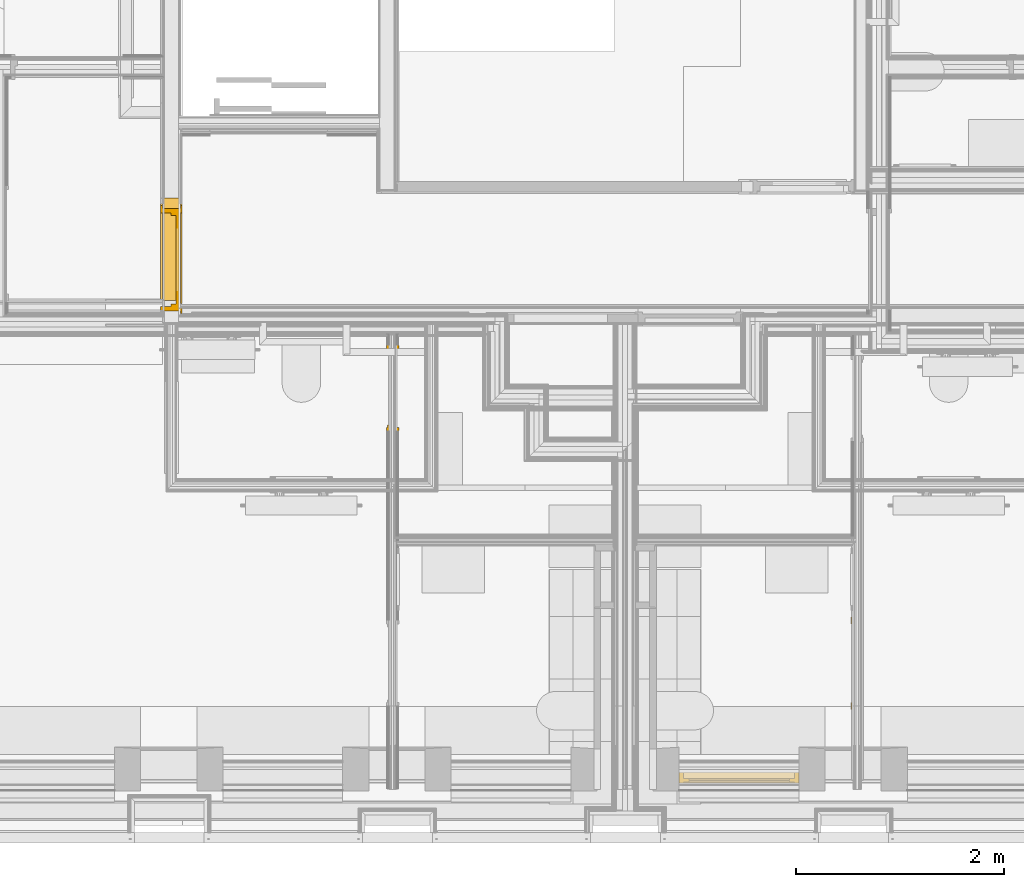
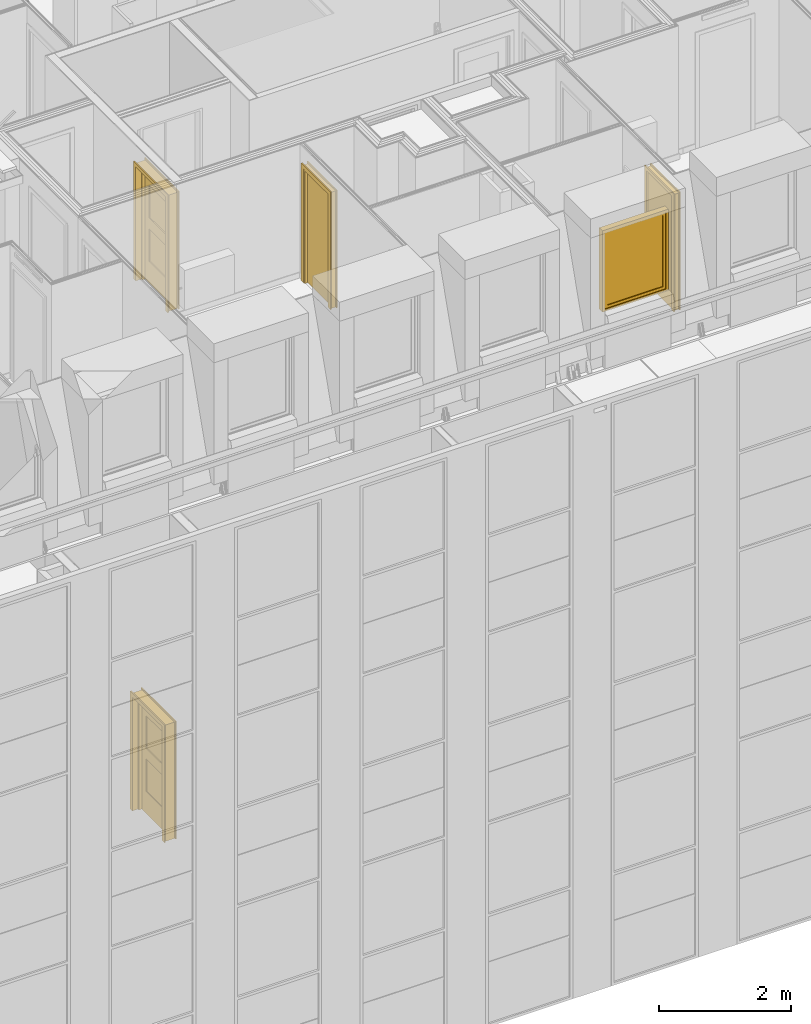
# One storey, part 104 of 169: 4 doors, 1 window.
"""IFC2X3 building model written with IfcOpenShell, lengths in metres."""

import ifcopenshell
import ifcopenshell.guid

model = None  # the IFC model being written
_history = None  # IfcOwnerHistory: only IFC2X3 demands one
_inside = {}  # id of a spatial element -> (the spatial element, [elements in it])
_under = {}  # id of a project, library or spatial element -> (it, [spatial elements below it])
_declared = {}  # id of a project -> (the project, [libraries it declares])
_typed = {}  # id of a type object -> (the type object, [elements of that type])
_made_of = {}  # id of a material, layer set ... -> (it, [elements and type objects made of it])


def new_model(schema):
    """Start an empty IFC model of exactly this schema.

    Asked for "IFC4X3", IfcOpenShell would pick the latest addendum, in which some entities
    have other attributes; the version numbers below select the first issue.
    IFC2X3 requires an IfcOwnerHistory on every rooted entity: one is made here for all.
    """
    global model, _history
    if schema == "IFC4X3":
        model = ifcopenshell.file(schema_version=(4, 3, 0, 0))
    else:
        model = ifcopenshell.file(schema=schema)
    _inside.clear()
    _under.clear()
    _declared.clear()
    _typed.clear()
    _made_of.clear()
    _history = None
    if model.schema == "IFC2X3":
        org = make("IfcOrganization", Name="unknown")
        user = make(
            "IfcPersonAndOrganization",
            ThePerson=make("IfcPerson", FamilyName="unknown"),
            TheOrganization=org,
        )
        app = make(
            "IfcApplication",
            ApplicationDeveloper=org,
            Version="unknown",
            ApplicationFullName="unknown",
            ApplicationIdentifier="unknown",
        )
        _history = make(
            "IfcOwnerHistory",
            OwningUser=user,
            OwningApplication=app,
            ChangeAction="ADDED",
            CreationDate=0,
        )
    return model


def make(cls, **values):
    """One entity of the class cls with the attributes given. An attribute that is None is left unset."""
    return model.create_entity(
        cls, **{name: value for name, value in values.items() if value is not None}
    )


def entity(cls, *values):
    """Any entity or typed value of the class cls, its attributes in the order of the schema. None: left unset."""
    e = model.create_entity(cls)
    for i, value in enumerate(values):
        if value is not None:
            e[i] = value
    return e


def rooted(cls, **values):
    """An entity with a GlobalId (a new one), such as an element, a storey or a relation."""
    return make(cls, GlobalId=ifcopenshell.guid.new(), OwnerHistory=_history, **values)


def si_unit(unit_type, name, prefix=None):
    """IfcSIUnit, for example si_unit("LENGTHUNIT", "METRE", prefix="MILLI")."""
    return make("IfcSIUnit", UnitType=unit_type, Prefix=prefix, Name=name)


def converted_unit(unit_type, name, factor, base, dimensions=None, offset=None):
    """IfcConversionBasedUnit, such as the inch: factor (a typed value) times the base unit."""
    return make(
        "IfcConversionBasedUnit"
        if offset is None
        else "IfcConversionBasedUnitWithOffset",
        ConversionOffset=offset,
        Dimensions=None
        if dimensions is None
        else entity("IfcDimensionalExponents", *dimensions),
        UnitType=unit_type,
        Name=name,
        ConversionFactor=make(
            "IfcMeasureWithUnit", ValueComponent=factor, UnitComponent=base
        ),
    )


def derived_unit(unit_type, elements):
    """IfcDerivedUnit: a product of units, each with its exponent."""
    return make(
        "IfcDerivedUnit",
        Elements=[
            make("IfcDerivedUnitElement", Unit=unit, Exponent=power)
            for unit, power in elements
        ],
        UnitType=unit_type,
    )


def money_unit(currency):
    """IfcMonetaryUnit."""
    return make("IfcMonetaryUnit", Currency=currency)


def assignment(units):
    """IfcUnitAssignment: the units of a project."""
    return None if units is None else make("IfcUnitAssignment", Units=units)


def point(xyz):
    """IfcCartesianPoint."""
    return None if xyz is None else make("IfcCartesianPoint", Coordinates=xyz)


def direction(xyz):
    """IfcDirection."""
    return None if xyz is None else make("IfcDirection", DirectionRatios=xyz)


def frame(location, z_axis=None, x_axis=None):
    """IfcAxis2Placement3D, a coordinate frame: its origin and axes. An axis left out is left unset."""
    return make(
        "IfcAxis2Placement3D",
        Location=point(location),
        Axis=direction(z_axis),
        RefDirection=direction(x_axis),
    )


def origin_with_axes():
    """The frame at (0, 0, 0) with the z axis (0, 0, 1) and the x axis (1, 0, 0) written out."""
    return frame((0.0, 0.0, 0.0), z_axis=(0.0, 0.0, 1.0), x_axis=(1.0, 0.0, 0.0))


def place(relative_to, where):
    """IfcLocalPlacement: puts the frame where relative to a parent placement (None: the world)."""
    return make(
        "IfcLocalPlacement", PlacementRelTo=relative_to, RelativePlacement=where
    )


def context(
    kind, dimensions, precision=None, world=None, true_north=None, identifier=None
):
    """IfcGeometricRepresentationContext, for example the 3D "Model" context."""
    return make(
        "IfcGeometricRepresentationContext",
        ContextIdentifier=identifier,
        ContextType=kind,
        CoordinateSpaceDimension=dimensions,
        Precision=precision,
        WorldCoordinateSystem=world,
        TrueNorth=true_north,
    )


def subcontext(parent, identifier, kind, view, scale=None):
    """IfcGeometricRepresentationSubContext, for example "Body" below "Model"."""
    return make(
        "IfcGeometricRepresentationSubContext",
        ContextIdentifier=identifier,
        ContextType=kind,
        ParentContext=parent,
        TargetScale=scale,
        TargetView=view,
    )


def project(units=None, contexts=None):
    """IfcProject with its units and contexts."""
    return rooted(
        "IfcProject",
        Name="project",
        RepresentationContexts=contexts,
        UnitsInContext=assignment(units),
    )


def spatial(cls, under=None, at=None, **own):
    """A site, building, storey or space (cls), placed at a placement, below another one or the project."""
    s = rooted(cls, ObjectPlacement=at, **own)
    if under is not None:
        _under.setdefault(under.id(), (under, []))[1].append(s)
    return s


def faces_of(points, faces, orient=None, outer=None):
    """IfcFace entities. A face is a list of loops; a loop is a list of indices into points, from 0.

    orient and outer hold one flag for each loop. By default every Orientation is true, the
    first loop of a face is its IfcFaceOuterBound and the others are IfcFaceBound.
    """
    made = []
    for i, loops in enumerate(faces):
        bounds = []
        for j, loop in enumerate(loops):
            is_outer = j == 0 if outer is None else outer[i][j]
            bounds.append(
                make(
                    "IfcFaceOuterBound" if is_outer else "IfcFaceBound",
                    Bound=make("IfcPolyLoop", Polygon=[points[k] for k in loop]),
                    Orientation=True if orient is None else orient[i][j],
                )
            )
        made.append(make("IfcFace", Bounds=bounds))
    return made


def faceted_brep(points, faces, orient=None, outer=None, voids=None):
    """IfcFacetedBrep: a solid bounded by flat faces; with voids (closed shells), ...WithVoids."""
    shared = [point(p) for p in points]
    hull = make("IfcClosedShell", CfsFaces=faces_of(shared, faces, orient, outer))
    if voids is None:
        return make("IfcFacetedBrep", Outer=hull)
    return make(
        "IfcFacetedBrepWithVoids",
        Outer=hull,
        Voids=[
            make(cls, CfsFaces=faces_of(shared, fs, o, b)) for cls, fs, o, b in voids
        ],
    )


def shape(context_of_items, identifier, shape_type, items):
    """IfcShapeRepresentation: the items that make up one representation, for example the "Body"."""
    return make(
        "IfcShapeRepresentation",
        ContextOfItems=context_of_items,
        RepresentationIdentifier=identifier,
        RepresentationType=shape_type,
        Items=items,
    )


def material(Name=None, Category=None):
    """IfcMaterial."""
    return make("IfcMaterial", Name=Name, Category=Category)


def made_of(thing, what):
    """Note that an element or type object is made of a material, layer set ...; save() writes the relation."""
    if what is not None:
        _made_of.setdefault(what.id(), (what, []))[1].append(thing)
    return thing


def type_object(cls, material=None, **own):
    """A type object (cls), such as IfcWallType, which elements share."""
    return made_of(rooted(cls, **own), material)


def element(
    cls,
    number,
    at=None,
    inside=None,
    cuts=None,
    type_object=None,
    material=None,
    context=None,
    identifier="Body",
    shape_type=None,
    held_by="IfcProductDefinitionShape",
    body=None,
    shapes=None,
    **own,
):
    """One element of the class cls, such as IfcWall. Its Tag is "e" and its number.

    at: its placement. inside: the storey or other place that contains it. cuts: it is an
    opening in that element (IfcRelVoidsElement). A single representation is given by context,
    identifier, shape_type and body (its items); several are given by shapes. held_by: the class
    of the entity that holds the representations. save() writes the other relations.
    """
    e = rooted(cls, Tag="e%d" % number, ObjectPlacement=at, **own)
    if body is not None:
        shapes = [shape(context, identifier, shape_type, body)]
    if shapes is not None:
        e.Representation = make(held_by, Representations=shapes)
    if inside is not None:
        _inside.setdefault(inside.id(), (inside, []))[1].append(e)
    if cuts is not None:
        rooted(
            "IfcRelVoidsElement", RelatingBuildingElement=cuts, RelatedOpeningElement=e
        )
    if type_object is not None:
        _typed.setdefault(type_object.id(), (type_object, []))[1].append(e)
    return made_of(e, material)


def aggregate(whole, parts):
    """IfcRelAggregates: a whole, such as a stair, and the parts it consists of."""
    return rooted("IfcRelAggregates", RelatingObject=whole, RelatedObjects=parts)


def save(model, path):
    """Write the relations noted so far, then the file.

    IfcRelAggregates (storeys below a building ...), IfcRelContainedInSpatialStructure (elements
    in a storey), IfcRelDefinesByType, IfcRelAssociatesMaterial and IfcRelDeclares: one each for
    every whole, place, type object, material and project.
    """
    for whole, parts in _under.values():
        aggregate(whole, parts)
    for where, things in _inside.values():
        rooted(
            "IfcRelContainedInSpatialStructure",
            RelatedElements=things,
            RelatingStructure=where,
        )
    for kind, things in _typed.values():
        rooted("IfcRelDefinesByType", RelatedObjects=things, RelatingType=kind)
    for what, things in _made_of.values():
        rooted("IfcRelAssociatesMaterial", RelatedObjects=things, RelatingMaterial=what)
    for by, libraries in _declared.values():
        rooted("IfcRelDeclares", RelatingContext=by, RelatedDefinitions=libraries)
    model.write(path)


model = new_model("IFC2X3")

# Units and contexts
model_context = context("Model", 3, precision=1e-05, world=origin_with_axes(), true_north=direction((0.0, 1.0)))
body_context = subcontext(model_context, "Body", "Model", "MODEL_VIEW", scale=1.0)
ifc_project = project(units=[si_unit("LENGTHUNIT", "METRE"), si_unit("AREAUNIT", "SQUARE_METRE"), si_unit("VOLUMEUNIT", "CUBIC_METRE"), si_unit("ABSORBEDDOSEUNIT", "GRAY"), si_unit("AMOUNTOFSUBSTANCEUNIT", "MOLE"), si_unit("DOSEEQUIVALENTUNIT", "SIEVERT"), si_unit("ELECTRICCAPACITANCEUNIT", "FARAD"), si_unit("ELECTRICCHARGEUNIT", "COULOMB"), si_unit("ELECTRICCONDUCTANCEUNIT", "SIEMENS"), si_unit("ELECTRICCURRENTUNIT", "AMPERE"), si_unit("ELECTRICRESISTANCEUNIT", "OHM"), si_unit("ELECTRICVOLTAGEUNIT", "VOLT"), si_unit("ENERGYUNIT", "JOULE"), si_unit("FORCEUNIT", "NEWTON"), si_unit("FREQUENCYUNIT", "HERTZ"), si_unit("ILLUMINANCEUNIT", "LUX"), si_unit("INDUCTANCEUNIT", "HENRY"), si_unit("LUMINOUSFLUXUNIT", "LUMEN"), si_unit("LUMINOUSINTENSITYUNIT", "CANDELA"), si_unit("MAGNETICFLUXDENSITYUNIT", "TESLA"), si_unit("MAGNETICFLUXUNIT", "WEBER"), si_unit("MASSUNIT", "GRAM"), converted_unit("PLANEANGLEUNIT", "degree", entity("IfcReal", 0.0174532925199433), si_unit("PLANEANGLEUNIT", "RADIAN"), dimensions=[0, 0, 0, 0, 0, 0, 0]), si_unit("POWERUNIT", "WATT"), si_unit("PRESSUREUNIT", "PASCAL"), si_unit("RADIOACTIVITYUNIT", "BECQUEREL"), si_unit("SOLIDANGLEUNIT", "STERADIAN"), si_unit("THERMODYNAMICTEMPERATUREUNIT", "KELVIN"), si_unit("TIMEUNIT", "SECOND"), derived_unit("ACCELERATIONUNIT", [(si_unit("LENGTHUNIT", "METRE"), 1), (si_unit("TIMEUNIT", "SECOND"), -2)]), derived_unit("ANGULARVELOCITYUNIT", [(converted_unit("PLANEANGLEUNIT", "degree", entity("IfcReal", 0.0174532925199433), si_unit("PLANEANGLEUNIT", "RADIAN"), dimensions=[0, 0, 0, 0, 0, 0, 0]), 1), (si_unit("TIMEUNIT", "SECOND"), -1)]), derived_unit("CURVATUREUNIT", [(converted_unit("PLANEANGLEUNIT", "degree", entity("IfcReal", 0.0174532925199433), si_unit("PLANEANGLEUNIT", "RADIAN"), dimensions=[0, 0, 0, 0, 0, 0, 0]), 1), (si_unit("LENGTHUNIT", "METRE"), -1)]), derived_unit("DYNAMICVISCOSITYUNIT", [(si_unit("PRESSUREUNIT", "PASCAL"), 1), (si_unit("TIMEUNIT", "SECOND"), 1)]), derived_unit("HEATFLUXDENSITYUNIT", [(si_unit("POWERUNIT", "WATT"), 1), (si_unit("LENGTHUNIT", "METRE"), -2)]), derived_unit("HEATINGVALUEUNIT", [(si_unit("ENERGYUNIT", "JOULE"), 1), (si_unit("MASSUNIT", "GRAM"), -1)]), derived_unit("INTEGERCOUNTRATEUNIT", [(si_unit("TIMEUNIT", "SECOND"), -1)]), derived_unit("IONCONCENTRATIONUNIT", [(si_unit("MASSUNIT", "GRAM"), 1), (si_unit("VOLUMEUNIT", "CUBIC_METRE"), -1)]), derived_unit("ISOTHERMALMOISTURECAPACITYUNIT", [(si_unit("VOLUMEUNIT", "CUBIC_METRE"), 1), (si_unit("MASSUNIT", "GRAM"), -1)]), derived_unit("KINEMATICVISCOSITYUNIT", [(si_unit("AREAUNIT", "SQUARE_METRE"), 1), (si_unit("TIMEUNIT", "SECOND"), -1)]), derived_unit("LINEARFORCEUNIT", [(si_unit("FORCEUNIT", "NEWTON"), 1), (si_unit("LENGTHUNIT", "METRE"), -1)]), derived_unit("LINEARMOMENTUNIT", [(si_unit("FORCEUNIT", "NEWTON"), 1), (si_unit("LENGTHUNIT", "METRE"), -1)]), derived_unit("LINEARSTIFFNESSUNIT", [(si_unit("FORCEUNIT", "NEWTON"), 1), (si_unit("LENGTHUNIT", "METRE"), -1)]), derived_unit("LINEARVELOCITYUNIT", [(si_unit("LENGTHUNIT", "METRE"), 1), (si_unit("TIMEUNIT", "SECOND"), -1)]), derived_unit("LUMINOUSINTENSITYDISTRIBUTIONUNIT", [(si_unit("LUMINOUSINTENSITYUNIT", "CANDELA"), 1), (si_unit("LUMINOUSFLUXUNIT", "LUMEN"), -1)]), derived_unit("MASSDENSITYUNIT", [(si_unit("MASSUNIT", "GRAM"), 1), (si_unit("VOLUMEUNIT", "CUBIC_METRE"), -1)]), derived_unit("MASSFLOWRATEUNIT", [(si_unit("MASSUNIT", "GRAM"), 1), (si_unit("TIMEUNIT", "SECOND"), -1)]), derived_unit("MASSPERLENGTHUNIT", [(si_unit("MASSUNIT", "GRAM"), 1), (si_unit("LENGTHUNIT", "METRE"), -1)]), derived_unit("MODULUSOFELASTICITYUNIT", [(si_unit("FORCEUNIT", "NEWTON"), 1), (si_unit("AREAUNIT", "SQUARE_METRE"), -1)]), derived_unit("MODULUSOFLINEARSUBGRADEREACTIONUNIT", [(si_unit("FORCEUNIT", "NEWTON"), 1), (si_unit("LENGTHUNIT", "METRE"), -2)]), derived_unit("MODULUSOFROTATIONALSUBGRADEREACTIONUNIT", [(si_unit("FORCEUNIT", "NEWTON"), 1), (si_unit("LENGTHUNIT", "METRE"), 1)]), derived_unit("MODULUSOFSUBGRADEREACTIONUNIT", [(si_unit("FORCEUNIT", "NEWTON"), 1), (si_unit("VOLUMEUNIT", "CUBIC_METRE"), -1)]), derived_unit("MOISTUREDIFFUSIVITYUNIT", [(si_unit("VOLUMEUNIT", "CUBIC_METRE"), 1), (si_unit("TIMEUNIT", "SECOND"), -1)]), derived_unit("MOLECULARWEIGHTUNIT", [(si_unit("MASSUNIT", "GRAM"), 1), (si_unit("AMOUNTOFSUBSTANCEUNIT", "MOLE"), -1)]), derived_unit("PLANARFORCEUNIT", [(si_unit("FORCEUNIT", "NEWTON"), 1), (si_unit("LENGTHUNIT", "METRE"), -2)]), derived_unit("ROTATIONALFREQUENCYUNIT", [(si_unit("TIMEUNIT", "SECOND"), -1)]), derived_unit("ROTATIONALMASSUNIT", [(si_unit("MASSUNIT", "GRAM"), 1), (si_unit("LENGTHUNIT", "METRE"), 2)]), derived_unit("ROTATIONALSTIFFNESSUNIT", [(si_unit("FORCEUNIT", "NEWTON"), 1), (si_unit("LENGTHUNIT", "METRE"), 1), (converted_unit("PLANEANGLEUNIT", "degree", entity("IfcReal", 0.0174532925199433), si_unit("PLANEANGLEUNIT", "RADIAN"), dimensions=[0, 0, 0, 0, 0, 0, 0]), -1)]), derived_unit("SECTIONAREAINTEGRALUNIT", [(si_unit("LENGTHUNIT", "METRE"), 5)]), derived_unit("SECTIONMODULUSUNIT", [(si_unit("LENGTHUNIT", "METRE"), 3)]), derived_unit("SHEARMODULUSUNIT", [(si_unit("FORCEUNIT", "NEWTON"), 1), (si_unit("AREAUNIT", "SQUARE_METRE"), -1)]), derived_unit("SOUNDPOWERUNIT", [(si_unit("ENERGYUNIT", "JOULE"), 1), (si_unit("TIMEUNIT", "SECOND"), -1)]), derived_unit("SPECIFICHEATCAPACITYUNIT", [(si_unit("FORCEUNIT", "NEWTON"), 1), (si_unit("MASSUNIT", "GRAM"), -1), (si_unit("THERMODYNAMICTEMPERATUREUNIT", "KELVIN"), -1)]), derived_unit("TEMPERATUREGRADIENTUNIT", [(si_unit("THERMODYNAMICTEMPERATUREUNIT", "KELVIN"), 1), (si_unit("LENGTHUNIT", "METRE"), -1)]), derived_unit("THERMALADMITTANCEUNIT", [(si_unit("POWERUNIT", "WATT"), 1), (si_unit("AREAUNIT", "SQUARE_METRE"), -1), (si_unit("THERMODYNAMICTEMPERATUREUNIT", "KELVIN"), -1)]), derived_unit("THERMALCONDUCTANCEUNIT", [(si_unit("POWERUNIT", "WATT"), 1), (si_unit("LENGTHUNIT", "METRE"), -1), (si_unit("THERMODYNAMICTEMPERATUREUNIT", "KELVIN"), -1)]), derived_unit("THERMALEXPANSIONCOEFFICIENTUNIT", [(si_unit("THERMODYNAMICTEMPERATUREUNIT", "KELVIN"), -1)]), derived_unit("THERMALRESISTANCEUNIT", [(si_unit("AREAUNIT", "SQUARE_METRE"), 1), (si_unit("POWERUNIT", "WATT"), -1)]), derived_unit("THERMALTRANSMITTANCEUNIT", [(si_unit("POWERUNIT", "WATT"), 1), (si_unit("AREAUNIT", "SQUARE_METRE"), -1), (si_unit("THERMODYNAMICTEMPERATUREUNIT", "KELVIN"), -1)]), derived_unit("TORQUEUNIT", [(si_unit("FORCEUNIT", "NEWTON"), 1), (si_unit("LENGTHUNIT", "METRE"), 1)]), derived_unit("VAPORPERMEABILITYUNIT", [(si_unit("MASSUNIT", "GRAM"), 1), (si_unit("TIMEUNIT", "SECOND"), -1)]), derived_unit("VOLUMETRICFLOWRATEUNIT", [(si_unit("VOLUMEUNIT", "CUBIC_METRE"), 1), (si_unit("TIMEUNIT", "SECOND"), -1)]), derived_unit("WARPINGCONSTANTUNIT", [(si_unit("LENGTHUNIT", "METRE"), 6)]), derived_unit("WARPINGMOMENTUNIT", [(si_unit("FORCEUNIT", "NEWTON"), 1), (si_unit("LENGTHUNIT", "METRE"), 2)]), money_unit("GBP")], contexts=[model_context])

# Site, building, storey, space
site_placement = place(None, origin_with_axes())
site = spatial("IfcSite", under=ifc_project, at=site_placement, Name="Site", CompositionType="ELEMENT")
building_placement = place(site_placement, origin_with_axes())
building = spatial("IfcBuilding", under=site, at=building_placement, Name="Building01", CompositionType="ELEMENT")
storey_placement = place(building_placement, frame((0.0, 0.0, 5.15), z_axis=(0.0, 0.0, 1.0), x_axis=(1.0, 0.0, 0.0)))
storey = spatial("IfcBuildingStorey", under=building, at=storey_placement, Name="1F", CompositionType="ELEMENT", Elevation=5.15)
space_1_placement = place(storey_placement, frame((15.69, 2.869761, 9.86), z_axis=(0.0, 0.0, 1.0), x_axis=(-1.0, 0.0, 0.0)))
space_1 = spatial("IfcSpace", under=storey, at=space_1_placement, Name="ensuite", CompositionType="ELEMENT", InteriorOrExteriorSpace="NOTDEFINED")

# Window
ifc_material_1 = material(Name="A_BSUK_Windows")
window_style = type_object("IfcWindowStyle", Name="A-Awning", ConstructionType="NOTDEFINED", OperationType="USERDEFINED", ParameterTakesPrecedence=False, Sizeable=False)
window_placement = place(storey_placement, frame((15.170024, 0.549939, 10.83), z_axis=(0.0, 0.0, 1.0), x_axis=(1.0, 0.0, 0.0)))
element("IfcWindow", 1, at=window_placement, inside=space_1, type_object=window_style, material=ifc_material_1, Name="4.06", ObjectType="A-Awning", OverallHeight=1.50000000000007, OverallWidth=1.15000000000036, context=body_context, shape_type="Brep", body=[
    faceted_brep([(-1.108, 0.0254, 0.042), (-0.042, 0.0254, 0.042), (-0.042, 0.1254, 0.042), (-1.108, 0.1254, 0.042), (-1.108, 0.0254, 1.458), (-1.108, 0.1254, 1.458), (-0.042, 0.0254, 1.458), (-0.042, 0.1254, 1.458), (0.0, 0.0254, 0.0), (0.0, 0.0254, 1.5), (-1.15, 0.0254, 1.5), (-1.15, 0.0254, 0.0), (0.0, 0.1254, 1.5), (-1.15, 0.1254, 1.5), (-1.15, 0.1254, 0.0), (0.0, 0.1254, 0.0)], [[[0, 1, 2, 3]], [[4, 0, 3, 5]], [[6, 4, 5, 7]], [[8, 9, 10, 11], [4, 6, 1, 0]], [[1, 6, 7, 2]], [[12, 13, 10, 9]], [[14, 15, 8, 11]], [[13, 14, 11, 10]], [[13, 12, 15, 14], [2, 7, 5, 3]], [[15, 12, 9, 8]]]),
    faceted_brep([(-1.0572, 0.0354, 0.0928), (-0.0928, 0.0354, 0.0928), (-0.0928, 0.0704, 0.0928), (-1.0572, 0.0704, 0.0928), (-1.0572, 0.0354, 1.4072), (-1.0572, 0.0704, 1.4072), (-0.0928, 0.0354, 1.4072), (-0.0928, 0.0704, 1.4072), (-1.108, 0.0704, 1.458), (-0.042, 0.0704, 1.458), (-0.042, 0.0704, 0.042), (-1.108, 0.0704, 0.042), (-1.108, 0.0354, 1.458), (-0.042, 0.0354, 1.458), (-0.042, 0.0354, 0.042), (-1.108, 0.0354, 0.042)], [[[0, 1, 2, 3]], [[4, 0, 3, 5]], [[6, 4, 5, 7]], [[8, 9, 10, 11], [2, 7, 5, 3]], [[9, 8, 12, 13]], [[10, 9, 13, 14]], [[11, 10, 14, 15]], [[8, 11, 15, 12]], [[14, 13, 12, 15], [4, 6, 1, 0]], [[1, 6, 7, 2]]]),
    faceted_brep([(-0.0928, 0.049725, 0.0928), (-0.0928, 0.056075, 0.0928), (-0.0928, 0.056075, 1.4072), (-0.0928, 0.049725, 1.4072), (-1.0572, 0.049725, 1.4072), (-1.0572, 0.056075, 1.4072), (-1.0572, 0.056075, 0.0928), (-1.0572, 0.049725, 0.0928)], [[[0, 1, 2, 3]], [[4, 5, 6, 7]], [[3, 2, 5, 4]], [[3, 4, 7, 0]], [[7, 6, 1, 0]], [[1, 6, 5, 2]]]),
])

# Space
space_2_placement = place(storey_placement, frame((12.175, 4.189428, 9.86), z_axis=(0.0, 0.0, 1.0), x_axis=(0.0, 1.0, 0.0)))
space_2 = spatial("IfcSpace", under=storey, at=space_2_placement, Name="25", CompositionType="ELEMENT", InteriorOrExteriorSpace="NOTDEFINED")

# Door
ifc_material_2 = material(Name="A_BSUK_Doors")
door_style_1 = type_object("IfcDoorStyle", Name="A-Doors-SingleFlush", ConstructionType="USERDEFINED", OperationType="SINGLE_SWING_LEFT", ParameterTakesPrecedence=False, Sizeable=False)
door_1_placement = place(storey_placement, frame((11.31, 4.739761, 9.83), z_axis=(0.0, 0.0, 1.0), x_axis=(0.0, -1.0, 0.0)))
element("IfcDoor", 2, at=door_1_placement, inside=space_2, type_object=door_style_1, material=ifc_material_2, Name="4.24", ObjectType="A-Doors-SingleFlush", OverallHeight=2.16900000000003, OverallWidth=0.88800000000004, context=body_context, shape_type="Brep", body=[
    faceted_brep([(0.0, -0.099, 2.1), (0.75, -0.099, 2.1), (0.75, -0.099, 0.0), (0.819, -0.099, 0.0), (0.819, -0.099, 2.169), (-0.069, -0.099, 2.169), (-0.069, -0.099, 0.0), (0.0, -0.099, 0.0), (0.819, -0.08, 2.169), (0.819, -0.08, 0.0), (-0.069, -0.08, 0.0), (-0.069, -0.08, 2.169), (-0.042, -0.08, 0.0), (-0.042, 0.0, 0.0), (-0.069, 0.0, 0.0), (-0.069, 0.019, 0.0), (0.0, 0.019, 0.0), (0.0, 0.019, 2.1), (0.75, 0.019, 2.1), (-0.069, 0.019, 2.169), (0.819, 0.019, 2.169), (0.819, 0.019, 0.0), (0.75, 0.019, 0.0), (-0.069, 0.0, 2.169), (-0.042, 0.0, 2.142), (-0.042, -0.08, 2.142), (0.792, 0.0, 2.142), (0.792, -0.08, 2.142), (0.792, -0.08, 0.0), (0.792, 0.0, 0.0), (0.819, 0.0, 0.0), (0.819, 0.0, 2.169)], [[[0, 1, 2, 3, 4, 5, 6, 7]], [[8, 4, 3, 9]], [[10, 6, 5, 11]], [[11, 5, 4, 8]], [[7, 6, 10, 12, 13, 14, 15, 16]], [[7, 16, 17, 0]], [[0, 17, 18, 1]], [[17, 16, 15, 19, 20, 21, 22, 18]], [[1, 18, 22, 2]], [[14, 23, 19, 15]], [[24, 13, 12, 25]], [[26, 24, 25, 27]], [[11, 8, 9, 28, 27, 25, 12, 10]], [[27, 28, 29, 26]], [[26, 29, 30, 31, 23, 14, 13, 24]], [[22, 21, 30, 29, 28, 9, 3, 2]], [[30, 21, 20, 31]], [[31, 20, 19, 23]]]),
    faceted_brep([(0.75, -0.09, 0.0), (0.75, -0.04, 0.0), (0.75, -0.04, 2.1), (0.75, -0.09, 2.1), (0.025, -0.09, 2.075), (0.725, -0.09, 2.075), (0.725, -0.09, 0.0), (0.0, -0.09, 2.1), (0.0, -0.09, 0.0), (0.025, -0.09, 0.0), (0.0, -0.04, 0.0), (0.025, -0.04, 0.0), (0.0, -0.04, 2.1), (0.025, -0.04, 2.075), (0.725, -0.04, 0.0), (0.725, -0.04, 2.075)], [[[0, 1, 2, 3]], [[4, 5, 6, 0, 3, 7, 8, 9]], [[9, 8, 10, 11]], [[3, 2, 12, 7]], [[7, 12, 10, 8]], [[13, 11, 10, 12, 2, 1, 14, 15]], [[5, 15, 14, 6]], [[14, 1, 0, 6]], [[9, 11, 13, 4]], [[4, 13, 15, 5]]]),
    faceted_brep([(0.0, -0.04, 2.1), (0.0, 0.0, 2.1), (0.0, 0.0, 0.0), (0.0, -0.04, 0.0), (0.75, -0.04, 0.0), (0.75, 0.0, 0.0), (0.75, 0.0, 2.1), (0.75, -0.04, 2.1)], [[[0, 1, 2, 3]], [[4, 5, 6, 7]], [[3, 2, 5, 4]], [[3, 4, 7, 0]], [[7, 6, 1, 0]], [[1, 6, 5, 2]]]),
])

# Space
space_3_placement = place(storey_placement, frame((17.73844, 7.349915, 9.86), z_axis=(0.0, 0.0, 1.0), x_axis=(0.0, -1.0, 0.0)))
space_3 = spatial("IfcSpace", under=storey, at=space_3_placement, Name="24", CompositionType="ELEMENT", InteriorOrExteriorSpace="NOTDEFINED")

# Door
door_2_placement = place(storey_placement, frame((15.69, 1.349939, 9.83), z_axis=(0.0, 0.0, 1.0), x_axis=(0.0, 1.0, 0.0)))
element("IfcDoor", 3, at=door_2_placement, inside=space_3, type_object=door_style_1, material=ifc_material_2, Name="4.13", ObjectType="A-Doors-SingleFlush", OverallHeight=2.16900000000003, OverallWidth=0.888000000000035, context=body_context, shape_type="Brep", body=[
    faceted_brep([(0.0, -0.099, 2.1), (0.75, -0.099, 2.1), (0.75, -0.099, 0.0), (0.819, -0.099, 0.0), (0.819, -0.099, 2.169), (-0.069, -0.099, 2.169), (-0.069, -0.099, 0.0), (0.0, -0.099, 0.0), (0.819, -0.08, 2.169), (0.819, -0.08, 0.0), (-0.069, -0.08, 0.0), (-0.069, -0.08, 2.169), (-0.042, -0.08, 0.0), (-0.042, 0.0, 0.0), (-0.069, 0.0, 0.0), (-0.069, 0.019, 0.0), (0.0, 0.019, 0.0), (0.0, 0.019, 2.1), (0.75, 0.019, 2.1), (-0.069, 0.019, 2.169), (0.819, 0.019, 2.169), (0.819, 0.019, 0.0), (0.75, 0.019, 0.0), (-0.069, 0.0, 2.169), (-0.042, 0.0, 2.142), (-0.042, -0.08, 2.142), (0.792, 0.0, 2.142), (0.792, -0.08, 2.142), (0.792, -0.08, 0.0), (0.792, 0.0, 0.0), (0.819, 0.0, 0.0), (0.819, 0.0, 2.169)], [[[0, 1, 2, 3, 4, 5, 6, 7]], [[8, 4, 3, 9]], [[10, 6, 5, 11]], [[11, 5, 4, 8]], [[7, 6, 10, 12, 13, 14, 15, 16]], [[7, 16, 17, 0]], [[0, 17, 18, 1]], [[17, 16, 15, 19, 20, 21, 22, 18]], [[1, 18, 22, 2]], [[14, 23, 19, 15]], [[24, 13, 12, 25]], [[26, 24, 25, 27]], [[11, 8, 9, 28, 27, 25, 12, 10]], [[27, 28, 29, 26]], [[26, 29, 30, 31, 23, 14, 13, 24]], [[22, 21, 30, 29, 28, 9, 3, 2]], [[30, 21, 20, 31]], [[31, 20, 19, 23]]]),
    faceted_brep([(0.75, -0.09, 0.0), (0.75, -0.04, 0.0), (0.75, -0.04, 2.1), (0.75, -0.09, 2.1), (0.025, -0.09, 2.075), (0.725, -0.09, 2.075), (0.725, -0.09, 0.0), (0.0, -0.09, 2.1), (0.0, -0.09, 0.0), (0.025, -0.09, 0.0), (0.0, -0.04, 0.0), (0.025, -0.04, 0.0), (0.0, -0.04, 2.1), (0.025, -0.04, 2.075), (0.725, -0.04, 0.0), (0.725, -0.04, 2.075)], [[[0, 1, 2, 3]], [[4, 5, 6, 0, 3, 7, 8, 9]], [[9, 8, 10, 11]], [[3, 2, 12, 7]], [[7, 12, 10, 8]], [[13, 11, 10, 12, 2, 1, 14, 15]], [[5, 15, 14, 6]], [[14, 1, 0, 6]], [[9, 11, 13, 4]], [[4, 13, 15, 5]]]),
    faceted_brep([(0.0, -0.04, 2.1), (0.0, 0.0, 2.1), (0.0, 0.0, 0.0), (0.0, -0.04, 0.0), (0.75, -0.04, 0.0), (0.75, 0.0, 0.0), (0.75, 0.0, 2.1), (0.75, -0.04, 2.1)], [[[0, 1, 2, 3]], [[4, 5, 6, 7]], [[3, 2, 5, 4]], [[3, 4, 7, 0]], [[7, 6, 1, 0]], [[1, 6, 5, 2]]]),
])

# Space
space_4_placement = place(storey_placement, frame((9.227386, 6.85, 0.017932), z_axis=(0.0, 0.0, 1.0), x_axis=(0.0, -1.0, 0.0)))
space_4 = spatial("IfcSpace", under=storey, at=space_4_placement, Name="hall (vented)", CompositionType="ELEMENT", InteriorOrExteriorSpace="NOTDEFINED")

# Door
door_style_2 = type_object("IfcDoorStyle", Name="A-Doors-SingleVisionPanels", ConstructionType="USERDEFINED", OperationType="SINGLE_SWING_RIGHT", ParameterTakesPrecedence=False, Sizeable=False)
door_3_placement = place(storey_placement, frame((9.23, 6.15, 0.0), z_axis=(0.0, 0.0, 1.0), x_axis=(0.0, -1.0, 0.0)))
element("IfcDoor", 4, at=door_3_placement, inside=space_4, type_object=door_style_2, material=ifc_material_2, Name="1.01", ObjectType="A-Doors-SingleVisionPanels", OverallHeight=2.16900000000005, OverallWidth=1.03800000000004, context=body_context, shape_type="Brep", body=[
    faceted_brep([(0.9, -0.189, 0.0), (0.969, -0.189, 0.0), (0.969, -0.189, 2.169), (-0.069, -0.189, 2.169), (-0.069, -0.189, 0.0), (0.0, -0.189, 0.0), (0.0, -0.189, 2.1), (0.9, -0.189, 2.1), (-0.069, -0.17, 0.0), (-0.069, -0.17, 2.169), (0.969, -0.17, 2.169), (0.969, -0.17, 0.0), (0.9, 0.019, 0.0), (0.969, 0.019, 0.0), (0.969, 0.0, 0.0), (0.942, 0.0, 0.0), (0.942, -0.17, 0.0), (0.9, 0.019, 2.1), (0.0, 0.019, 2.1), (0.0, 0.019, 0.0), (-0.069, 0.019, 0.0), (-0.069, 0.019, 2.169), (0.969, 0.019, 2.169), (0.969, 0.0, 2.169), (0.942, -0.17, 2.142), (0.942, 0.0, 2.142), (-0.042, -0.17, 2.142), (-0.042, 0.0, 2.142), (-0.042, -0.17, 0.0), (-0.042, 0.0, 0.0), (-0.069, 0.0, 2.169), (-0.069, 0.0, 0.0)], [[[0, 1, 2, 3, 4, 5, 6, 7]], [[8, 4, 3, 9]], [[10, 2, 1, 11]], [[9, 3, 2, 10]], [[12, 13, 14, 15, 16, 11, 1, 0]], [[7, 17, 12, 0]], [[6, 18, 17, 7]], [[18, 19, 20, 21, 22, 13, 12, 17]], [[5, 19, 18, 6]], [[13, 22, 23, 14]], [[24, 16, 15, 25]], [[26, 24, 25, 27]], [[11, 16, 24, 26, 28, 8, 9, 10]], [[27, 29, 28, 26]], [[25, 15, 14, 23, 30, 31, 29, 27]], [[5, 4, 8, 28, 29, 31, 20, 19]], [[30, 21, 20, 31]], [[23, 22, 21, 30]]]),
    faceted_brep([(0.0, -0.09, 2.1), (0.0, -0.04, 2.1), (0.0, -0.04, 0.0), (0.0, -0.09, 0.0), (0.875, -0.09, 0.0), (0.9, -0.09, 0.0), (0.9, -0.09, 2.1), (0.025, -0.09, 0.0), (0.025, -0.09, 2.075), (0.875, -0.09, 2.075), (0.875, -0.04, 0.0), (0.9, -0.04, 0.0), (0.9, -0.04, 2.1), (0.025, -0.04, 2.075), (0.025, -0.04, 0.0), (0.875, -0.04, 2.075)], [[[0, 1, 2, 3]], [[4, 5, 6, 0, 3, 7, 8, 9]], [[10, 11, 5, 4]], [[6, 12, 1, 0]], [[5, 11, 12, 6]], [[13, 14, 2, 1, 12, 11, 10, 15]], [[7, 14, 13, 8]], [[7, 3, 2, 14]], [[9, 15, 10, 4]], [[8, 13, 15, 9]]]),
    faceted_brep([(0.75, -0.017, 1.0), (0.75, -0.023, 1.0), (0.75, -0.023, 0.4), (0.75, -0.017, 0.4), (0.15, -0.017, 0.4), (0.15, -0.023, 0.4), (0.15, -0.023, 1.0), (0.15, -0.017, 1.0)], [[[0, 1, 2, 3]], [[4, 5, 6, 7]], [[7, 6, 1, 0]], [[3, 4, 7, 0]], [[3, 2, 5, 4]], [[1, 6, 5, 2]]]),
    faceted_brep([(0.75, -0.017, 1.8), (0.75, -0.023, 1.8), (0.75, -0.023, 1.2), (0.75, -0.017, 1.2), (0.15, -0.017, 1.2), (0.15, -0.023, 1.2), (0.15, -0.023, 1.8), (0.15, -0.017, 1.8)], [[[0, 1, 2, 3]], [[4, 5, 6, 7]], [[7, 6, 1, 0]], [[3, 4, 7, 0]], [[3, 2, 5, 4]], [[1, 6, 5, 2]]]),
    faceted_brep([(0.15, -0.04, 1.8), (0.15, 0.0, 1.8), (0.75, 0.0, 1.8), (0.75, -0.04, 1.8), (0.15, -0.04, 0.4), (0.15, 0.0, 0.4), (0.15, 0.0, 1.0), (0.15, -0.04, 1.0), (0.75, -0.04, 0.4), (0.75, 0.0, 0.4), (0.75, -0.04, 1.0), (0.75, 0.0, 1.0), (0.0, 0.0, 2.1), (0.9, 0.0, 2.1), (0.9, 0.0, 0.0), (0.0, 0.0, 0.0), (0.15, 0.0, 1.2), (0.75, 0.0, 1.2), (0.0, -0.04, 2.1), (0.0, -0.04, 0.0), (0.9, -0.04, 2.1), (0.9, -0.04, 0.0), (0.15, -0.04, 1.2), (0.75, -0.04, 1.2)], [[[0, 1, 2, 3]], [[4, 5, 6, 7]], [[8, 9, 5, 4]], [[10, 11, 9, 8]], [[7, 6, 11, 10]], [[12, 13, 14, 15], [5, 9, 11, 6], [16, 17, 2, 1]], [[18, 12, 15, 19]], [[20, 13, 12, 18]], [[21, 14, 13, 20]], [[19, 15, 14, 21]], [[22, 16, 1, 0]], [[23, 17, 16, 22]], [[3, 2, 17, 23]], [[19, 21, 20, 18], [4, 7, 10, 8], [22, 0, 3, 23]]]),
])

# Space
space_5_placement = place(storey_placement, frame((9.23, 5.08, 9.86), z_axis=(0.0, 0.0, 1.0), x_axis=(1.0, 0.0, 0.0)))
space_5 = spatial("IfcSpace", under=storey, at=space_5_placement, Name="hall (vented)", CompositionType="ELEMENT", InteriorOrExteriorSpace="NOTDEFINED")

# Door
door_4_placement = place(storey_placement, frame((9.23, 6.05, 9.83), z_axis=(0.0, 0.0, 1.0), x_axis=(0.0, -1.0, 0.0)))
element("IfcDoor", 5, at=door_4_placement, inside=space_5, type_object=door_style_2, material=ifc_material_2, Name="4.01", ObjectType="A-Doors-SingleVisionPanels", OverallHeight=2.16900000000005, OverallWidth=1.03800000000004, context=body_context, shape_type="Brep", body=[
    faceted_brep([(0.9, -0.189, 0.0), (0.969, -0.189, 0.0), (0.969, -0.189, 2.169), (-0.069, -0.189, 2.169), (-0.069, -0.189, 0.0), (0.0, -0.189, 0.0), (0.0, -0.189, 2.1), (0.9, -0.189, 2.1), (-0.069, -0.17, 0.0), (-0.069, -0.17, 2.169), (0.969, -0.17, 2.169), (0.969, -0.17, 0.0), (0.9, 0.019, 0.0), (0.969, 0.019, 0.0), (0.969, 0.0, 0.0), (0.942, 0.0, 0.0), (0.942, -0.17, 0.0), (0.9, 0.019, 2.1), (0.0, 0.019, 2.1), (0.0, 0.019, 0.0), (-0.069, 0.019, 0.0), (-0.069, 0.019, 2.169), (0.969, 0.019, 2.169), (0.969, 0.0, 2.169), (0.942, -0.17, 2.142), (0.942, 0.0, 2.142), (-0.042, -0.17, 2.142), (-0.042, 0.0, 2.142), (-0.042, -0.17, 0.0), (-0.042, 0.0, 0.0), (-0.069, 0.0, 2.169), (-0.069, 0.0, 0.0)], [[[0, 1, 2, 3, 4, 5, 6, 7]], [[8, 4, 3, 9]], [[10, 2, 1, 11]], [[9, 3, 2, 10]], [[12, 13, 14, 15, 16, 11, 1, 0]], [[7, 17, 12, 0]], [[6, 18, 17, 7]], [[18, 19, 20, 21, 22, 13, 12, 17]], [[5, 19, 18, 6]], [[13, 22, 23, 14]], [[24, 16, 15, 25]], [[26, 24, 25, 27]], [[11, 16, 24, 26, 28, 8, 9, 10]], [[27, 29, 28, 26]], [[25, 15, 14, 23, 30, 31, 29, 27]], [[5, 4, 8, 28, 29, 31, 20, 19]], [[30, 21, 20, 31]], [[23, 22, 21, 30]]]),
    faceted_brep([(0.0, -0.09, 2.1), (0.0, -0.04, 2.1), (0.0, -0.04, 0.0), (0.0, -0.09, 0.0), (0.875, -0.09, 0.0), (0.9, -0.09, 0.0), (0.9, -0.09, 2.1), (0.025, -0.09, 0.0), (0.025, -0.09, 2.075), (0.875, -0.09, 2.075), (0.875, -0.04, 0.0), (0.9, -0.04, 0.0), (0.9, -0.04, 2.1), (0.025, -0.04, 2.075), (0.025, -0.04, 0.0), (0.875, -0.04, 2.075)], [[[0, 1, 2, 3]], [[4, 5, 6, 0, 3, 7, 8, 9]], [[10, 11, 5, 4]], [[6, 12, 1, 0]], [[5, 11, 12, 6]], [[13, 14, 2, 1, 12, 11, 10, 15]], [[7, 14, 13, 8]], [[7, 3, 2, 14]], [[9, 15, 10, 4]], [[8, 13, 15, 9]]]),
    faceted_brep([(0.75, -0.017, 1.0), (0.75, -0.023, 1.0), (0.75, -0.023, 0.4), (0.75, -0.017, 0.4), (0.15, -0.017, 0.4), (0.15, -0.023, 0.4), (0.15, -0.023, 1.0), (0.15, -0.017, 1.0)], [[[0, 1, 2, 3]], [[4, 5, 6, 7]], [[7, 6, 1, 0]], [[3, 4, 7, 0]], [[3, 2, 5, 4]], [[1, 6, 5, 2]]]),
    faceted_brep([(0.75, -0.017, 1.8), (0.75, -0.023, 1.8), (0.75, -0.023, 1.2), (0.75, -0.017, 1.2), (0.15, -0.017, 1.2), (0.15, -0.023, 1.2), (0.15, -0.023, 1.8), (0.15, -0.017, 1.8)], [[[0, 1, 2, 3]], [[4, 5, 6, 7]], [[7, 6, 1, 0]], [[3, 4, 7, 0]], [[3, 2, 5, 4]], [[1, 6, 5, 2]]]),
    faceted_brep([(0.15, -0.04, 1.8), (0.15, 0.0, 1.8), (0.75, 0.0, 1.8), (0.75, -0.04, 1.8), (0.15, -0.04, 0.4), (0.15, 0.0, 0.4), (0.15, 0.0, 1.0), (0.15, -0.04, 1.0), (0.75, -0.04, 0.4), (0.75, 0.0, 0.4), (0.75, -0.04, 1.0), (0.75, 0.0, 1.0), (0.0, 0.0, 2.1), (0.9, 0.0, 2.1), (0.9, 0.0, 0.0), (0.0, 0.0, 0.0), (0.15, 0.0, 1.2), (0.75, 0.0, 1.2), (0.0, -0.04, 2.1), (0.0, -0.04, 0.0), (0.9, -0.04, 2.1), (0.9, -0.04, 0.0), (0.15, -0.04, 1.2), (0.75, -0.04, 1.2)], [[[0, 1, 2, 3]], [[4, 5, 6, 7]], [[8, 9, 5, 4]], [[10, 11, 9, 8]], [[7, 6, 11, 10]], [[12, 13, 14, 15], [5, 9, 11, 6], [16, 17, 2, 1]], [[18, 12, 15, 19]], [[20, 13, 12, 18]], [[21, 14, 13, 20]], [[19, 15, 14, 21]], [[22, 16, 1, 0]], [[23, 17, 16, 22]], [[3, 2, 17, 23]], [[19, 21, 20, 18], [4, 7, 10, 8], [22, 0, 3, 23]]]),
])

save(model, "model.ifc")
